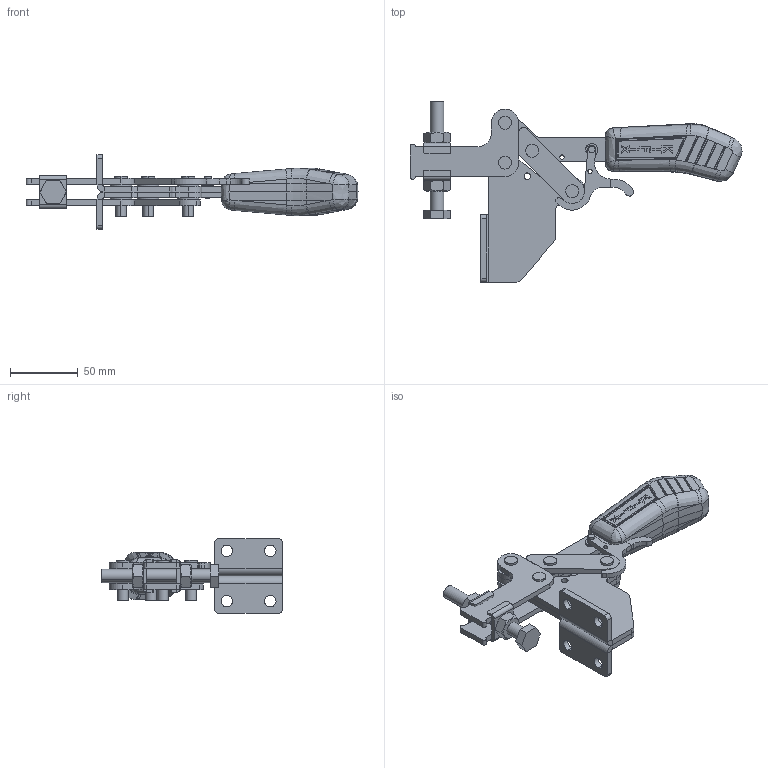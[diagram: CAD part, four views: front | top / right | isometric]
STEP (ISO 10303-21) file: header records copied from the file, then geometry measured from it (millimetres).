
FILE_DESCRIPTION (( 'STEP AP203' ), '1' );
FILE_NAME ('KF-531 F TR.STEP', '2018-04-17T11:11:55', ( 'Ricardo' ), ( '' ), 'SwSTEP 2.0', 'SolidWorks 2018', '' );
FILE_SCHEMA (( 'CONFIG_CONTROL_DESIGN' ));
Length unit declared in the file: millimetre
Products named in the file (15): 14.10003; 12.50021; 02.12208_Direita; 11.50003; 02.12208_Esquerda; 17.50002; 01.10135; 18.10020; 03.13018; 17.50013; 08.10008; 3670000096; 06.50026; KF-531 F TR; 07.60002
Assembly tree (30 placements, depth 2):
  KF-531 F TR
    02.12208_Direita
    02.12208_Esquerda
    01.10135  x2
    03.13018  x2
    08.10008  x2
    06.50026  x4
    07.60002
    14.10003  x2
    12.50021
    11.50003  x2
    17.50002  x8
    18.10020
    17.50013  x2
    3670000096
Bounding box: 244.69 x 133.34 x 55 mm (x, y, z)
Volume: 203970.3 mm3; surface area: 91750.4 mm2
Topology: 30 solids, 30 shells, 866 faces, 2111 edges, 1319 vertices
Faces by surface type: plane 295, cylinder 259, bspline 157, cone 100, sphere 52, torus 3
Entity records: 25293 total; most frequent: CARTESIAN_POINT 9115, ORIENTED_EDGE 3192, DIRECTION 2595, EDGE_CURVE 1596, VERTEX_POINT 1009, AXIS2_PLACEMENT_3D 990, EDGE_LOOP 711, FACE_OUTER_BOUND 638
